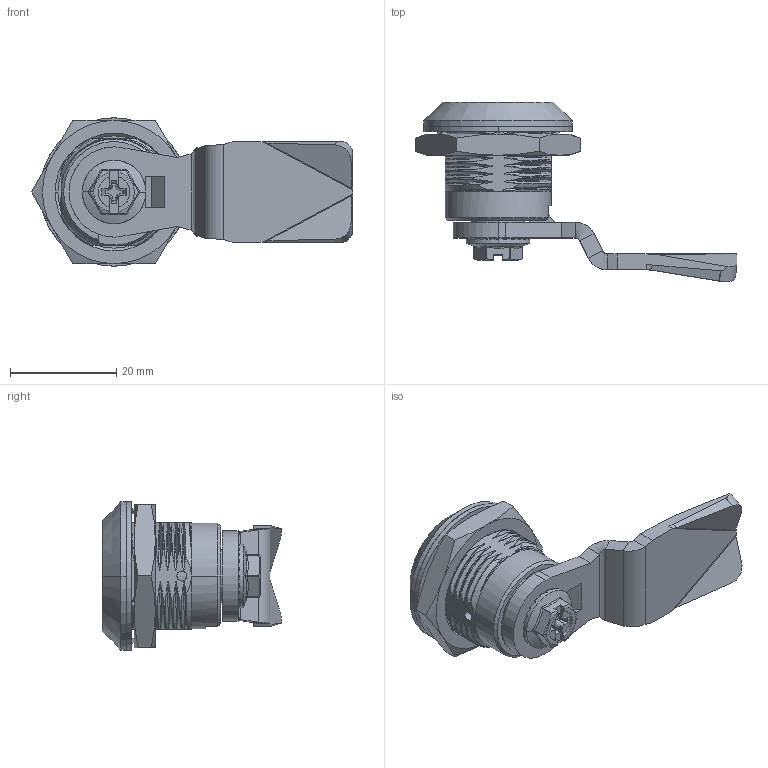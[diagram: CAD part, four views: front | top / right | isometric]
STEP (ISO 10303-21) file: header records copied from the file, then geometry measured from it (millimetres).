
FILE_DESCRIPTION (( 'STEP AP214' ), '1' );
FILE_NAME ('CUYUE.MS705-3B.STEP', '2026-06-22T06:49:50', ( '' ), ( '' ), 'SwSTEP 2.0', 'SolidWorks 2020', '' );
FILE_SCHEMA (( 'AUTOMOTIVE_DESIGN' ));
Length unit declared in the file: millimetre
Products named in the file (8): 8SJ.MS773-4.0010; 8SJ.MS773-4.0040; S1B4506_X2_94A26813_X0_(010005A); 8SJ.MS773-4.0210; _X2_5916516D89D253414E005B579632677E87BA9489_X0_ M6x10; M22X1_5; 8SJ-MS705-0510; CUYUE.MS705-3B
Assembly tree (7 placements, depth 2):
  CUYUE.MS705-3B
    8SJ.MS773-4.0010
    8SJ.MS773-4.0040
    8SJ.MS773-4.0210
    S1B4506_X2_94A26813_X0_(010005A)
    _X2_5916516D89D253414E005B579632677E87BA9489_X0_ M6x10
    8SJ-MS705-0510
    M22X1_5
Bounding box: 60.59 x 33.84 x 28 mm (x, y, z)
Volume: 4964.8 mm3; surface area: 10693.6 mm2
Topology: 5 solids, 7 shells, 899 faces, 2366 edges, 1433 vertices
Faces by surface type: bspline 357, cylinder 242, plane 204, cone 96
Entity records: 47684 total; most frequent: CARTESIAN_POINT 19770, ORIENTED_EDGE 4596, DIRECTION 2446, EDGE_CURVE 2300, VERTEX_POINT 1433, B_SPLINE_CURVE_WITH_KNOTS 1048, EDGE_LOOP 933, UNCERTAINTY_MEASURE_WITH_UNIT 919
